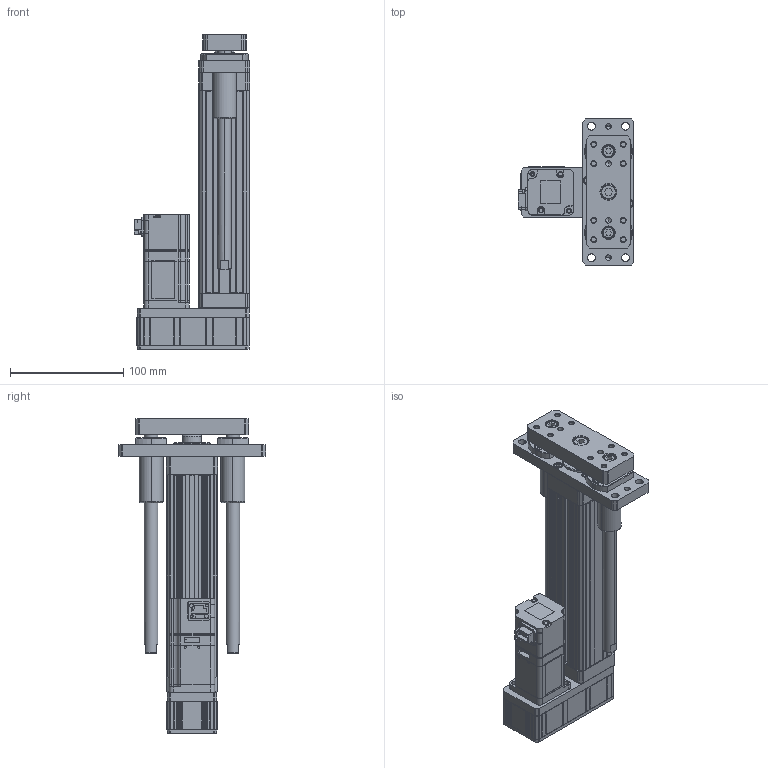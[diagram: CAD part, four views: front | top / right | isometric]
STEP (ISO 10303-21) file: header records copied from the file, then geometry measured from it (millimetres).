
FILE_DESCRIPTION (( 'STEP AP203' ), '1' );
FILE_NAME ('ANS045-GP100-05(10)-W10.STEP', '2019-02-14T03:10:58', ( 'user' ), ( '' ), 'SwSTEP 2.0', 'SolidWorks 2013', '' );
FILE_SCHEMA (( 'CONFIG_CONTROL_DESIGN' ));
Length unit declared in the file: millimetre
Products named in the file (4): ANS045 GP100 VER2; ANS045 ROD ST100 G; SGMJV_01A_A21; ANS045-GP100-05(10)-W10
Assembly tree (3 placements, depth 2):
  ANS045-GP100-05(10)-W10
    ANS045 GP100 VER2
    ANS045 ROD ST100 G
    SGMJV_01A_A21
Bounding box: 102.3 x 130 x 277.5 mm (x, y, z)
Volume: 648256.9 mm3; surface area: 201402.3 mm2
Topology: 3 solids, 23 shells, 1437 faces, 3610 edges, 2284 vertices
Faces by surface type: plane 766, cylinder 471, cone 194, torus 4, bspline 2
Entity records: 42978 total; most frequent: CARTESIAN_POINT 8067, DIRECTION 7202, ORIENTED_EDGE 7172, EDGE_CURVE 3586, AXIS2_PLACEMENT_3D 2403, LINE 2396, VECTOR 2396, VERTEX_POINT 2284
